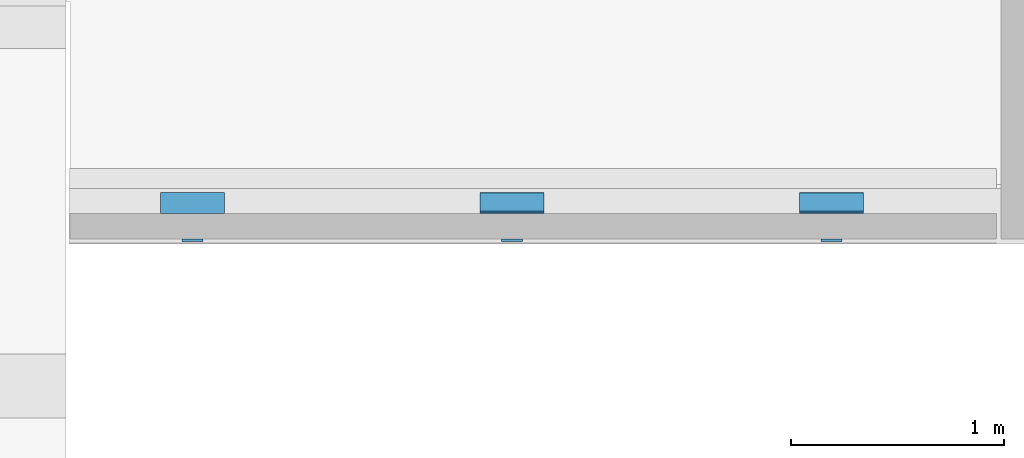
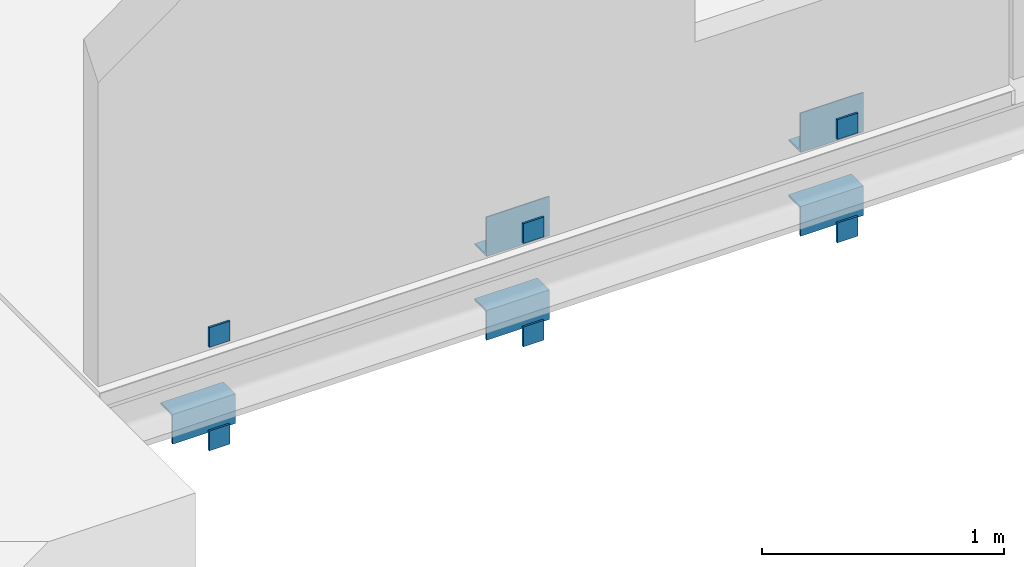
# One storey, part 4 of 10: 11 beams.
"""IFC2X3 building model written with IfcOpenShell, lengths in millimetres."""

from ifc_helpers import new_model, entity, si_unit, converted_unit, derived_unit, direction, frame, frame_2d, origin, origin_2d_with_axis, place, context, subcontext, project, spatial, polyline, circle_curve, parameter, trimmed, segment, composite_curve, rectangle, outline, extrude, source, transform, mapped, material, type_object, type_shapes, element, save


model = new_model("IFC2X3")

# Units and contexts
model_context = context("Model", 3, precision=0.01, world=origin(), true_north=direction((6.12303176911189e-17, 1.0)))
body_context = subcontext(model_context, "Body", "Model", "MODEL_VIEW")
ifc_project = project(units=[si_unit("LENGTHUNIT", "METRE", prefix="MILLI"), si_unit("AREAUNIT", "SQUARE_METRE"), si_unit("VOLUMEUNIT", "CUBIC_METRE"), converted_unit("PLANEANGLEUNIT", "DEGREE", entity("IfcRatioMeasure", 0.0174532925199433), si_unit("PLANEANGLEUNIT", "RADIAN"), dimensions=[0, 0, 0, 0, 0, 0, 0]), si_unit("MASSUNIT", "GRAM", prefix="KILO"), derived_unit("MASSDENSITYUNIT", [(si_unit("MASSUNIT", "GRAM", prefix="KILO"), 1), (si_unit("LENGTHUNIT", "METRE"), -3)]), si_unit("TIMEUNIT", "SECOND"), si_unit("FREQUENCYUNIT", "HERTZ"), si_unit("THERMODYNAMICTEMPERATUREUNIT", "DEGREE_CELSIUS"), derived_unit("THERMALTRANSMITTANCEUNIT", [(si_unit("MASSUNIT", "GRAM", prefix="KILO"), 1), (si_unit("THERMODYNAMICTEMPERATUREUNIT", "KELVIN"), -1), (si_unit("TIMEUNIT", "SECOND"), -3)]), derived_unit("VOLUMETRICFLOWRATEUNIT", [(si_unit("LENGTHUNIT", "METRE"), 3), (si_unit("TIMEUNIT", "SECOND"), -1)]), si_unit("ELECTRICCURRENTUNIT", "AMPERE"), si_unit("ELECTRICVOLTAGEUNIT", "VOLT"), si_unit("POWERUNIT", "WATT"), si_unit("FORCEUNIT", "NEWTON", prefix="KILO"), si_unit("ILLUMINANCEUNIT", "LUX"), si_unit("LUMINOUSFLUXUNIT", "LUMEN"), si_unit("LUMINOUSINTENSITYUNIT", "CANDELA"), derived_unit("USERDEFINED", [(si_unit("MASSUNIT", "GRAM", prefix="KILO"), -1), (si_unit("LENGTHUNIT", "METRE"), -2), (si_unit("TIMEUNIT", "SECOND"), 3), (si_unit("LUMINOUSFLUXUNIT", "LUMEN"), 1)]), derived_unit("LINEARVELOCITYUNIT", [(si_unit("LENGTHUNIT", "METRE"), 1), (si_unit("TIMEUNIT", "SECOND"), -1)]), si_unit("PRESSUREUNIT", "PASCAL"), derived_unit("USERDEFINED", [(si_unit("LENGTHUNIT", "METRE"), -2), (si_unit("MASSUNIT", "GRAM", prefix="KILO"), 1), (si_unit("TIMEUNIT", "SECOND"), -2)])], contexts=[model_context])

# Site, building, storey
site_placement = place(None, origin())
site = spatial("IfcSite", under=ifc_project, at=site_placement, Name="Default", CompositionType="ELEMENT")
building_placement = place(site_placement, origin())
building = spatial("IfcBuilding", under=site, at=building_placement, Name="niet gebruiken", CompositionType="ELEMENT")
storey_placement = place(building_placement, frame((0.0, 0.0, 9000.0)))
storey = spatial("IfcBuildingStorey", under=building, at=storey_placement, Name="02 tweede verdieping", CompositionType="ELEMENT", Elevation=9000.00000000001)

# Beams
ifc_material = material(Name="NLRS_h2_staal")
beam_type_1 = type_object("IfcBeamType", Name="ligger stripstaal RECT_100x10 gedraaid", PredefinedType="BEAM", material=ifc_material)
shared_shape = source(origin(), body_context, "Body", "SweptSolid", [
    extrude(rectangle(XDim=100.0, YDim=9.99999999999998, at=origin_2d_with_axis()), frame((0.0, 0.0, -50.0), z_axis=(0.0, 0.0, 1.0), x_axis=(-1.0, 0.0, 0.0)), (0.0, 0.0, 1.0), 100.0),
    extrude(rectangle(XDim=100.0, YDim=9.99999999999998, at=origin_2d_with_axis()), frame((0.0, 0.0, -50.0), z_axis=(0.0, 0.0, 1.0), x_axis=(-1.0, 0.0, 0.0)), (0.0, 0.0, 1.0), 100.0),
])
type_shapes(beam_type_1, [shared_shape])
for number, where, z_axis, x_axis, name in (
    (1, (160895.0, 33765.0, 900.0), (0.0, 0.0, 1.0), (-1.0, 0.0, 0.0), "NLRS_28.11_SF_WPB_stalen ligger stripstaal_gen:ligger stripstaal RECT_100x10 gedraaid"),
    (2, (159395.0, 33765.0, 900.0), (0.0, 0.0, 1.0), (-1.0, 0.0, 0.0), "NLRS_28.11_SF_WPB_stalen ligger stripstaal_gen:ligger stripstaal RECT_100x10 gedraaid"),
    (3, (162395.0, 33765.0, 900.0), (0.0, 0.0, 1.0), (-1.0, 0.0, 0.0), "NLRS_28.11_SF_WPB_stalen ligger stripstaal_gen:ligger stripstaal RECT_100x10 gedraaid"),
    (4, (160895.0, 33765.0, 378.0), (0.0, 0.0, 1.0), (-1.0, 0.0, 0.0), "NLRS_28.11_SF_WPB_stalen ligger stripstaal_gen:ligger stripstaal RECT_100x10 gedraaid"),
    (5, (159395.0, 33765.0, 378.0), (0.0, 0.0, 1.0), (-1.0, 0.0, 0.0), "NLRS_28.11_SF_WPB_stalen ligger stripstaal_gen:ligger stripstaal RECT_100x10 gedraaid"),
    (6, (162395.0, 33765.0, 378.0), (0.0, 0.0, 1.0), (-1.0, 0.0, 0.0), "NLRS_28.11_SF_WPB_stalen ligger stripstaal_gen:ligger stripstaal RECT_100x10 gedraaid"),
):
    element("IfcBeam", number, at=place(storey_placement, frame(where, z_axis=z_axis, x_axis=x_axis)), inside=storey, type_object=beam_type_1, material=ifc_material, Name=name, ObjectType="ligger stripstaal RECT_100x10 gedraaid", context=body_context, shape_type="MappedRepresentation", body=[
        mapped(shared_shape, transform((0.0, 0.0, 0.0), scale=1.0)),
    ])
beam_type_2 = type_object("IfcBeamType", Name="NLRS_28.11_SF_WPB_stalen ligger hoekprofiel ongelijkzijdig_gen:ligger ongelijzijdig hoekprofiel LUEQ_200x100x10", PredefinedType="BEAM")
for number, where, name in (
    (7, (160745.0, 33910.13, 940.0), "NLRS_28.11_SF_WPB_stalen ligger hoekprofiel ongelijkzijdig_gen:ligger ongelijzijdig hoekprofiel LUEQ_200x100x10"),
    (8, (162245.0, 33910.13, 940.0), "NLRS_28.11_SF_WPB_stalen ligger hoekprofiel ongelijkzijdig_gen:ligger ongelijzijdig hoekprofiel LUEQ_200x100x10"),
):
    element("IfcBeam", number, at=place(storey_placement, frame(where)), inside=storey, type_object=beam_type_2, material=ifc_material, Name=name, ObjectType="NLRS_28.11_SF_WPB_stalen ligger hoekprofiel ongelijkzijdig_gen:ligger ongelijzijdig hoekprofiel LUEQ_200x100x10", context=body_context, shape_type="SweptSolid", body=[
        extrude(outline(composite_curve([segment(polyline([(-128.888888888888, -37.777777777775), (71.1111111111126, -37.777777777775)]), True, "CONTINUOUS"), segment(polyline([(71.1111111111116, -37.777777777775), (71.1111111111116, 62.2222222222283)]), True, "CONTINUOUS"), segment(polyline([(71.1111111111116, 62.222222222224), (68.6111111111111, 62.222222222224)]), True, "CONTINUOUS"), segment(trimmed(circle_curve(frame_2d((68.6111111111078, 54.7222222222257), x_axis=(0.0, 1.0)), 7.49999999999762), [parameter(0.0)], [parameter(90.0000000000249)], True, "PARAMETER"), True, "CONTINUOUS"), segment(polyline([(61.1111111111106, 54.7222222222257), (61.1111111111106, -12.777777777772)]), True, "CONTINUOUS"), segment(trimmed(circle_curve(frame_2d((46.1111111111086, -12.7777777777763), x_axis=(1.0, 0.0)), 15.0000000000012), [parameter(270.000000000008)], [parameter(0.0)], True, "PARAMETER"), False, "CONTINUOUS"), segment(polyline([(46.1111111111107, -27.7777777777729), (-121.38888888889, -27.7777777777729)]), True, "CONTINUOUS"), segment(trimmed(circle_curve(frame_2d((-121.388888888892, -35.2777777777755), x_axis=(0.0, 1.0)), 7.49999999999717), [parameter(0.0)], [parameter(90.0000000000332)], True, "PARAMETER"), True, "CONTINUOUS"), segment(polyline([(-128.888888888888, -35.2777777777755), (-128.888888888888, -37.777777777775)]), True, "CONTINUOUS")], self_intersect=False)), frame((0.0, 17.6477777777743, -128.888888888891), z_axis=(1.0, 0.0, 0.0), x_axis=(0.0, 0.0, -1.0)), (0.0, 0.0, 1.0), 300.000000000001),
    ])
beam_type_3 = type_object("IfcBeamType", Name="NLRS_28.11_SF_WPB_stalen ligger hoekprofiel ongelijkzijdig_gen:ligger ongelijzijdig hoekprofiel LUEQ_150x100x10", PredefinedType="BEAM")
for number, where, z_axis, x_axis, name in (
    (9, (161045.0, 33913.36, 468.0), (0.0, 0.0, 1.0), (-1.0, 0.0, 0.0), "NLRS_28.11_SF_WPB_stalen ligger hoekprofiel ongelijkzijdig_gen:ligger ongelijzijdig hoekprofiel LUEQ_150x100x10"),
    (10, (159545.0, 33913.36, 468.0), (0.0, 0.0, 1.0), (-1.0, 0.0, 0.0), "NLRS_28.11_SF_WPB_stalen ligger hoekprofiel ongelijkzijdig_gen:ligger ongelijzijdig hoekprofiel LUEQ_150x100x10"),
    (11, (162545.0, 33913.36, 468.0), (0.0, 0.0, 1.0), (-1.0, 0.0, 0.0), "NLRS_28.11_SF_WPB_stalen ligger hoekprofiel ongelijkzijdig_gen:ligger ongelijzijdig hoekprofiel LUEQ_150x100x10"),
):
    element("IfcBeam", number, at=place(storey_placement, frame(where, z_axis=z_axis, x_axis=x_axis)), inside=storey, type_object=beam_type_3, material=ifc_material, Name=name, ObjectType="NLRS_28.11_SF_WPB_stalen ligger hoekprofiel ongelijkzijdig_gen:ligger ongelijzijdig hoekprofiel LUEQ_150x100x10", context=body_context, shape_type="SweptSolid", body=[
        extrude(outline(composite_curve([segment(polyline([(-54.4444444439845, -62.2222222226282), (-50.9444444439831, -62.2222222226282)]), True, "CONTINUOUS"), segment(trimmed(circle_curve(frame_2d((-50.9444444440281, -55.722222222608), x_axis=(0.0, -1.0)), 6.49999999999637), [parameter(0.0)], [parameter(90.0000000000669)], True, "PARAMETER"), True, "CONTINUOUS"), segment(polyline([(-44.4444444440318, -55.7222222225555), (-44.4444444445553, 14.7777777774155)]), True, "CONTINUOUS"), segment(trimmed(circle_curve(frame_2d((-31.4444444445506, 14.777777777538), x_axis=(-1.0, 0.0)), 13.0000000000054), [parameter(270.000000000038)], [parameter(0.0)], True, "PARAMETER"), False, "CONTINUOUS"), segment(polyline([(-31.4444444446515, 27.7777777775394), (89.0555555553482, 27.7777777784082)]), True, "CONTINUOUS"), segment(trimmed(circle_curve(frame_2d((89.0555555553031, 34.2777777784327), x_axis=(0.0, -1.0)), 6.49999999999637), [parameter(0.0)], [parameter(90.0000000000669)], True, "PARAMETER"), True, "CONTINUOUS"), segment(polyline([(95.5555555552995, 34.2777777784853), (95.5555555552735, 37.7777777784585)]), True, "CONTINUOUS"), segment(polyline([(95.5555555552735, 37.7777777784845), (-54.444444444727, 37.7777777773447)]), True, "CONTINUOUS"), segment(polyline([(-54.444444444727, 37.7777777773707), (-54.4444444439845, -62.2222222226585)]), True, "CONTINUOUS")], self_intersect=False)), frame((0.0, -14.4177777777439, -54.4444444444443), z_axis=(1.0, 0.0, 0.0), x_axis=(0.0, 0.0, -1.0)), (0.0, 0.0, 1.0), 300.00000000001),
    ])

save(model, "model.ifc")
